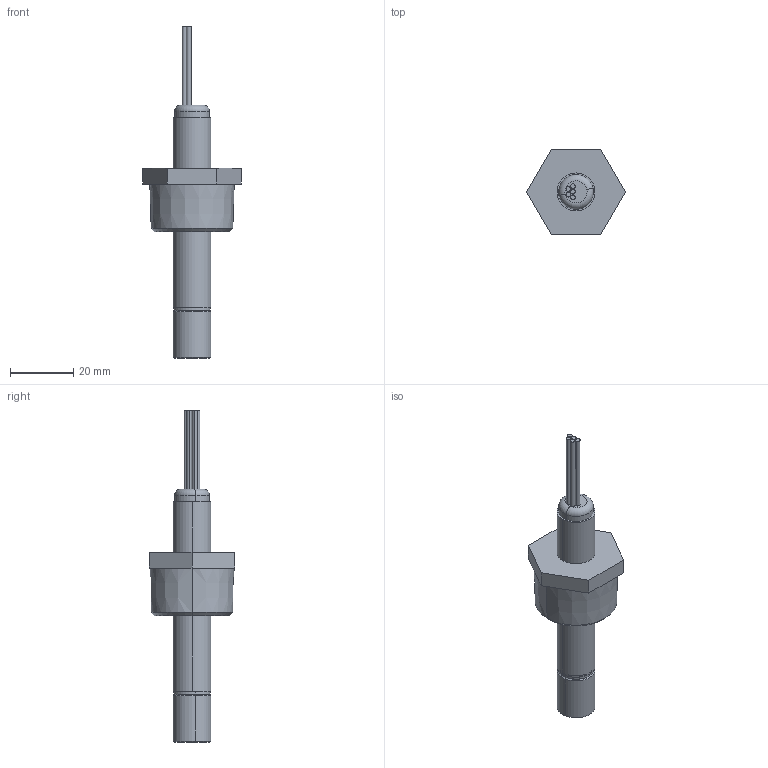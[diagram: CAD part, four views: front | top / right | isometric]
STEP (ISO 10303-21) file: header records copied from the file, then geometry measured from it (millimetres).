
FILE_DESCRIPTION (( 'STEP AP203' ), '1' );
FILE_NAME ('O2S-FR-T2-NPTA-XXX Rev1.STEP', '2020-12-09T17:05:54', ( '' ), ( '' ), 'SwSTEP 2.0', 'SolidWorks 2020', '' );
FILE_SCHEMA (( 'CONFIG_CONTROL_DESIGN' ));
Length unit declared in the file: millimetre
Products named in the file (1): O2S-FR-T2-NPTA-XXX Rev1
Bounding box: 31.15 x 26.97 x 105 mm (x, y, z)
Volume: 18089.9 mm3; surface area: 5813.8 mm2
Topology: 1 solids, 3 shells, 65 faces, 134 edges, 86 vertices
Faces by surface type: cylinder 28, plane 23, cone 12, torus 2
Entity records: 1825 total; most frequent: DIRECTION 342, CARTESIAN_POINT 286, ORIENTED_EDGE 268, AXIS2_PLACEMENT_3D 142, EDGE_CURVE 134, VERTEX_POINT 86, EDGE_LOOP 80, CIRCLE 76
